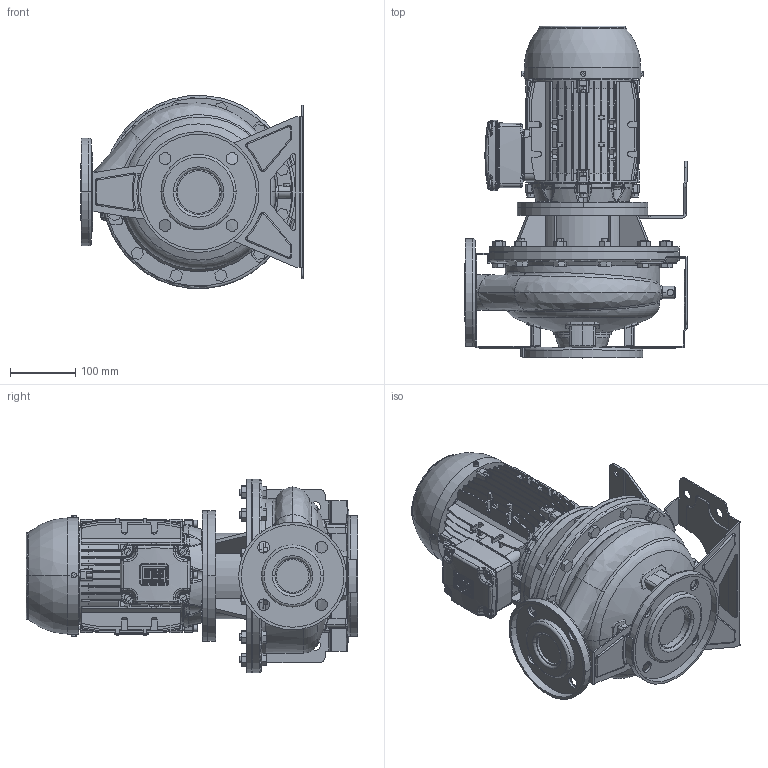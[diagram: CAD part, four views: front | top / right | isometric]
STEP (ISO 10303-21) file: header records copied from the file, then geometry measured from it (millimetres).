
FILE_DESCRIPTION (( 'STEP AP214' ), '1' );
FILE_NAME ('3LS4 50-160_1.1_(90SL)_W21.STEP', '2026-10-05T01:20:04', ( '' ), ( '' ), 'SwSTEP 2.0', 'SolidWorks 2024', '' );
FILE_SCHEMA (( 'AUTOMOTIVE_DESIGN' ));
Length unit declared in the file: inch
Products named in the file (3): 90S_L ALIE3_W21T_B5; 3LS4 50-160_1.1_(90SL)_W21; 3SF4_50-160_1_1
Assembly tree (2 placements, depth 2):
  3LS4 50-160_1.1_(90SL)_W21
    3SF4_50-160_1_1
    90S_L ALIE3_W21T_B5
Bounding box: 340 x 508 x 295.54 mm (x, y, z)
Volume: 13139523.1 mm3; surface area: 1382049.2 mm2
Topology: 12 solids, 16 shells, 3160 faces, 8336 edges, 5415 vertices
Faces by surface type: plane 1881, cylinder 755, bspline 218, torus 168, cone 110, sphere 28
Entity records: 160822 total; most frequent: CARTESIAN_POINT 84232, ORIENTED_EDGE 16616, DIRECTION 14758, EDGE_CURVE 8308, VERTEX_POINT 5415, LINE 5226, VECTOR 5226, AXIS2_PLACEMENT_3D 4766
